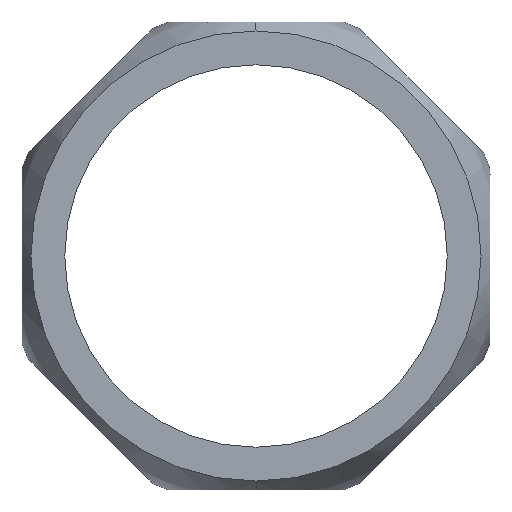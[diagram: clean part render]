
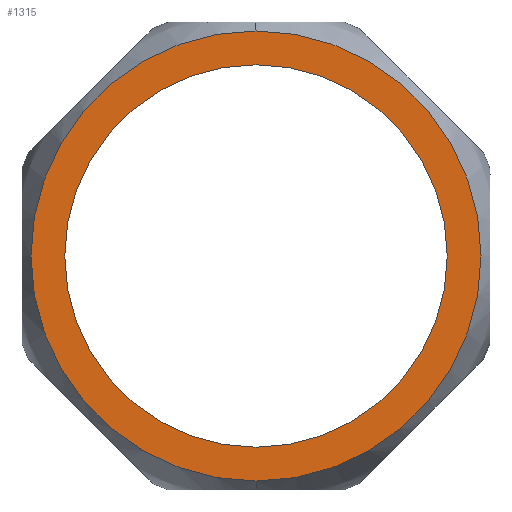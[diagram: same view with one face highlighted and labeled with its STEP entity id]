
A CAD part, left-side view. The second image highlights one B-rep face of the part: STEP entity #1315.
In plain terms, the highlighted planar face has unit normal (-1, 0, 0).
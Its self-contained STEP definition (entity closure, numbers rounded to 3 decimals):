
#75=CARTESIAN_POINT('',(0.0,0.,21.25));
#76=VERTEX_POINT('',#75);
#92=CARTESIAN_POINT('',(0.,-21.25,0.));
#93=VERTEX_POINT('',#92);
#100=CARTESIAN_POINT('',(0.0,0.,0.0));
#101=DIRECTION('',(1.0,0.0,0.0));
#102=DIRECTION('',(0.0,0.0,-1.0));
#103=AXIS2_PLACEMENT_3D('',#100,#101,#102);
#104=CIRCLE('',#103,21.25);
#105=EDGE_CURVE('',#76,#93,#104,.T.);
#277=CARTESIAN_POINT('',(0.0,0.,-21.25));
#278=VERTEX_POINT('',#277);
#294=CARTESIAN_POINT('',(0.,21.25,0.0));
#295=VERTEX_POINT('',#294);
#302=CARTESIAN_POINT('',(0.0,0.,0.0));
#303=DIRECTION('',(1.0,0.0,0.0));
#304=DIRECTION('',(0.0,0.0,1.0));
#305=AXIS2_PLACEMENT_3D('',#302,#303,#304);
#306=CIRCLE('',#305,21.25);
#307=EDGE_CURVE('',#278,#295,#306,.T.);
#383=CARTESIAN_POINT('',(0.,0.,-25.003));
#384=VERTEX_POINT('',#383);
#400=CARTESIAN_POINT('',(0.,25.003,0.0));
#401=VERTEX_POINT('',#400);
#402=CARTESIAN_POINT('',(0.,0.,0.0));
#403=DIRECTION('',(1.0,0.0,0.0));
#404=DIRECTION('',(0.0,1.0,0.0));
#405=AXIS2_PLACEMENT_3D('',#402,#403,#404);
#406=CIRCLE('',#405,25.003);
#407=EDGE_CURVE('',#384,#401,#406,.T.);
#409=CARTESIAN_POINT('',(0.,0.,25.003));
#410=VERTEX_POINT('',#409);
#411=CARTESIAN_POINT('',(0.,0.,0.0));
#412=DIRECTION('',(1.0,0.0,0.0));
#413=DIRECTION('',(0.0,1.0,0.0));
#414=AXIS2_PLACEMENT_3D('',#411,#412,#413);
#415=CIRCLE('',#414,25.003);
#416=EDGE_CURVE('',#401,#410,#415,.T.);
#738=CARTESIAN_POINT('',(0.0,0.,0.0));
#739=DIRECTION('',(1.0,0.0,0.0));
#740=DIRECTION('',(0.0,0.0,1.0));
#741=AXIS2_PLACEMENT_3D('',#738,#739,#740);
#742=CIRCLE('',#741,21.25);
#743=EDGE_CURVE('',#93,#278,#742,.T.);
#1190=CARTESIAN_POINT('',(0.0,0.,0.0));
#1191=DIRECTION('',(1.0,0.0,0.0));
#1192=DIRECTION('',(0.0,0.0,-1.0));
#1193=AXIS2_PLACEMENT_3D('',#1190,#1191,#1192);
#1194=CIRCLE('',#1193,21.25);
#1195=EDGE_CURVE('',#295,#76,#1194,.T.);
#1280=CARTESIAN_POINT('',(0.,0.,0.0));
#1281=DIRECTION('',(1.0,0.0,0.0));
#1282=DIRECTION('',(0.0,1.0,0.0));
#1283=AXIS2_PLACEMENT_3D('',#1280,#1281,#1282);
#1284=CIRCLE('',#1283,25.003);
#1285=EDGE_CURVE('',#410,#384,#1284,.T.);
#1299=CARTESIAN_POINT('',(0.0,-27.503,-27.503));
#1300=DIRECTION('',(-1.0,0.0,0.0));
#1301=DIRECTION('',(0.0,0.0,1.0));
#1302=AXIS2_PLACEMENT_3D('',#1299,#1300,#1301);
#1303=PLANE('',#1302);
#1304=ORIENTED_EDGE('',*,*,#416,.F.);
#1305=ORIENTED_EDGE('',*,*,#407,.F.);
#1306=ORIENTED_EDGE('',*,*,#1285,.F.);
#1307=EDGE_LOOP('',(#1304,#1305,#1306));
#1308=FACE_OUTER_BOUND('',#1307,.T.);
#1309=ORIENTED_EDGE('',*,*,#1195,.T.);
#1310=ORIENTED_EDGE('',*,*,#105,.T.);
#1311=ORIENTED_EDGE('',*,*,#743,.T.);
#1312=ORIENTED_EDGE('',*,*,#307,.T.);
#1313=EDGE_LOOP('',(#1309,#1310,#1311,#1312));
#1314=FACE_BOUND('',#1313,.T.);
#1315=ADVANCED_FACE('',(#1308,#1314),#1303,.T.);
